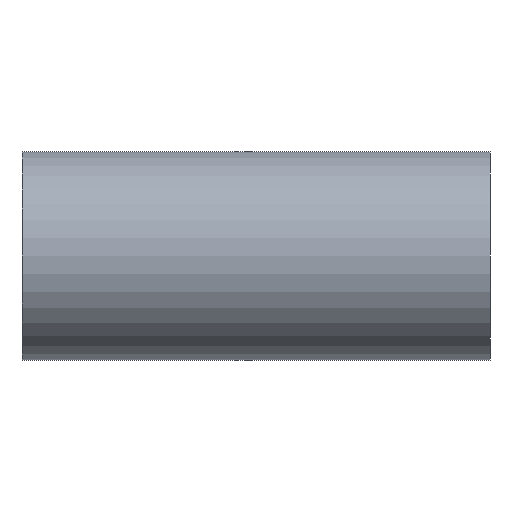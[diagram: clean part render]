
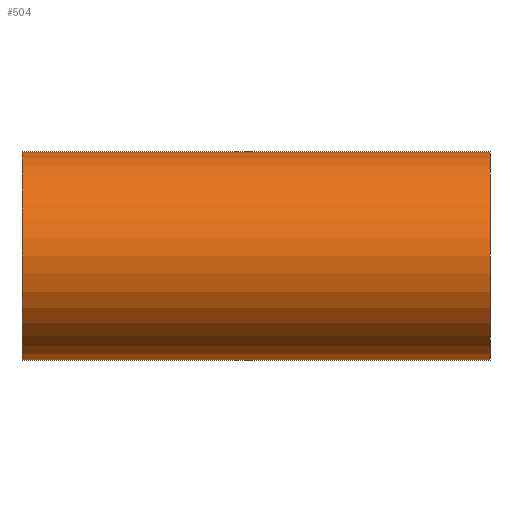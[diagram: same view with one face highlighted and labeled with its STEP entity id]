
A CAD part, front view. The second image highlights one B-rep face of the part: STEP entity #504.
In plain terms, the highlighted cylindrical face has radius 76.2 mm (diameter 152.4 mm), a partial arc.
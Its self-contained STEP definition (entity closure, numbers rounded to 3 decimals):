
#11 = DIRECTION ( 'NONE',  ( 1., 0., 0. ) ) ;
#12 = ORIENTED_EDGE ( 'NONE', *, *, #187, .T. ) ;
#49 = AXIS2_PLACEMENT_3D ( 'NONE', #420, #549, #493 ) ;
#53 = AXIS2_PLACEMENT_3D ( 'NONE', #75, #11, #223 ) ;
#56 = ORIENTED_EDGE ( 'NONE', *, *, #640, .F. ) ;
#58 = LINE ( 'NONE', #376, #584 ) ;
#65 = DIRECTION ( 'NONE',  ( 0., 0., 1. ) ) ;
#75 = CARTESIAN_POINT ( 'NONE',  ( -171., 0., 0. ) ) ;
#79 = VERTEX_POINT ( 'NONE', #505 ) ;
#84 = VERTEX_POINT ( 'NONE', #487 ) ;
#93 = ORIENTED_EDGE ( 'NONE', *, *, #539, .T. ) ;
#107 = EDGE_CURVE ( 'NONE', #79, #110, #364, .T. ) ;
#110 = VERTEX_POINT ( 'NONE', #358 ) ;
#111 = EDGE_LOOP ( 'NONE', ( #56, #211, #93, #12 ) ) ;
#116 = VECTOR ( 'NONE', #456, 1000. ) ;
#146 = CYLINDRICAL_SURFACE ( 'NONE', #49, 76.2 ) ;
#187 = EDGE_CURVE ( 'NONE', #84, #605, #319, .T. ) ;
#211 = ORIENTED_EDGE ( 'NONE', *, *, #107, .T. ) ;
#223 = DIRECTION ( 'NONE',  ( 0., 0., 1. ) ) ;
#319 = CIRCLE ( 'NONE', #53, 76.2 ) ;
#334 = DIRECTION ( 'NONE',  ( -1., 0., 0. ) ) ;
#358 = CARTESIAN_POINT ( 'NONE',  ( 171., 0., 76.2 ) ) ;
#364 = CIRCLE ( 'NONE', #419, 76.2 ) ;
#376 = CARTESIAN_POINT ( 'NONE',  ( 386.526, 0., -76.2 ) ) ;
#419 = AXIS2_PLACEMENT_3D ( 'NONE', #423, #334, #65 ) ;
#420 = CARTESIAN_POINT ( 'NONE',  ( 386.526, 0., 0. ) ) ;
#423 = CARTESIAN_POINT ( 'NONE',  ( 171., 0., 0. ) ) ;
#456 = DIRECTION ( 'NONE',  ( -1., 0., 0. ) ) ;
#458 = CARTESIAN_POINT ( 'NONE',  ( 386.526, 0., 76.2 ) ) ;
#487 = CARTESIAN_POINT ( 'NONE',  ( -171., 0., 76.2 ) ) ;
#493 = DIRECTION ( 'NONE',  ( 0., 0., 1. ) ) ;
#504 = ADVANCED_FACE ( 'NONE', ( #561 ), #146, .T. ) ;
#505 = CARTESIAN_POINT ( 'NONE',  ( 171., 0., -76.2 ) ) ;
#516 = CARTESIAN_POINT ( 'NONE',  ( -171., 0., -76.2 ) ) ;
#525 = LINE ( 'NONE', #458, #116 ) ;
#539 = EDGE_CURVE ( 'NONE', #110, #84, #525, .T. ) ;
#549 = DIRECTION ( 'NONE',  ( -1., 0., 0. ) ) ;
#561 = FACE_OUTER_BOUND ( 'NONE', #111, .T. ) ;
#584 = VECTOR ( 'NONE', #646, 1000. ) ;
#605 = VERTEX_POINT ( 'NONE', #516 ) ;
#640 = EDGE_CURVE ( 'NONE', #79, #605, #58, .T. ) ;
#646 = DIRECTION ( 'NONE',  ( -1., 0., 0. ) ) ;
